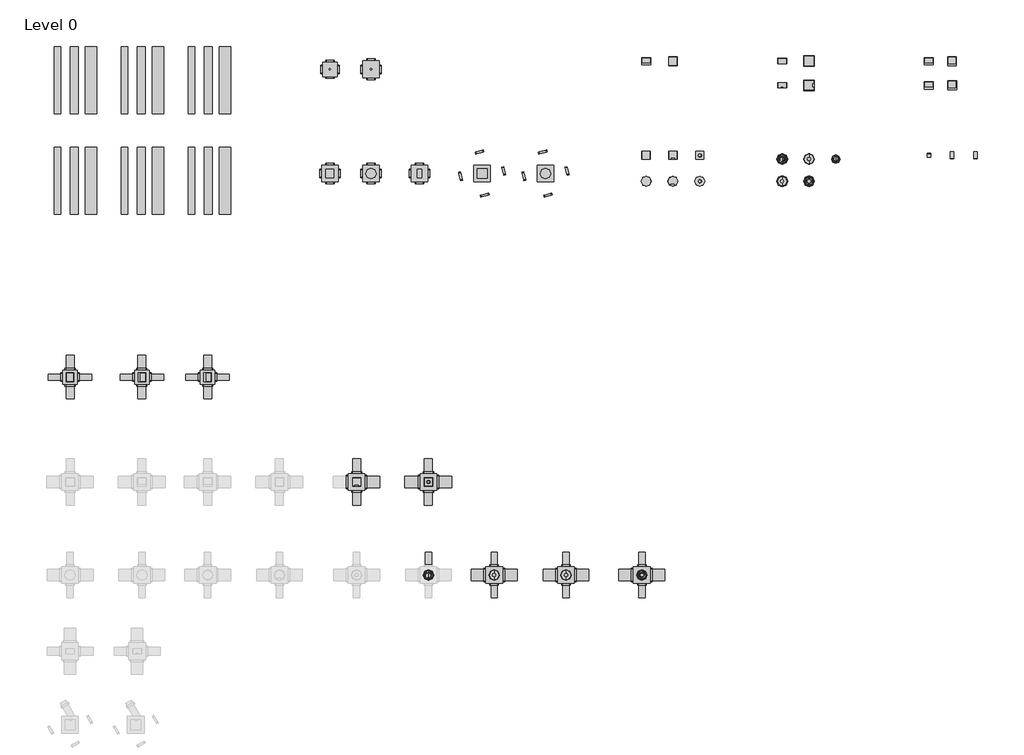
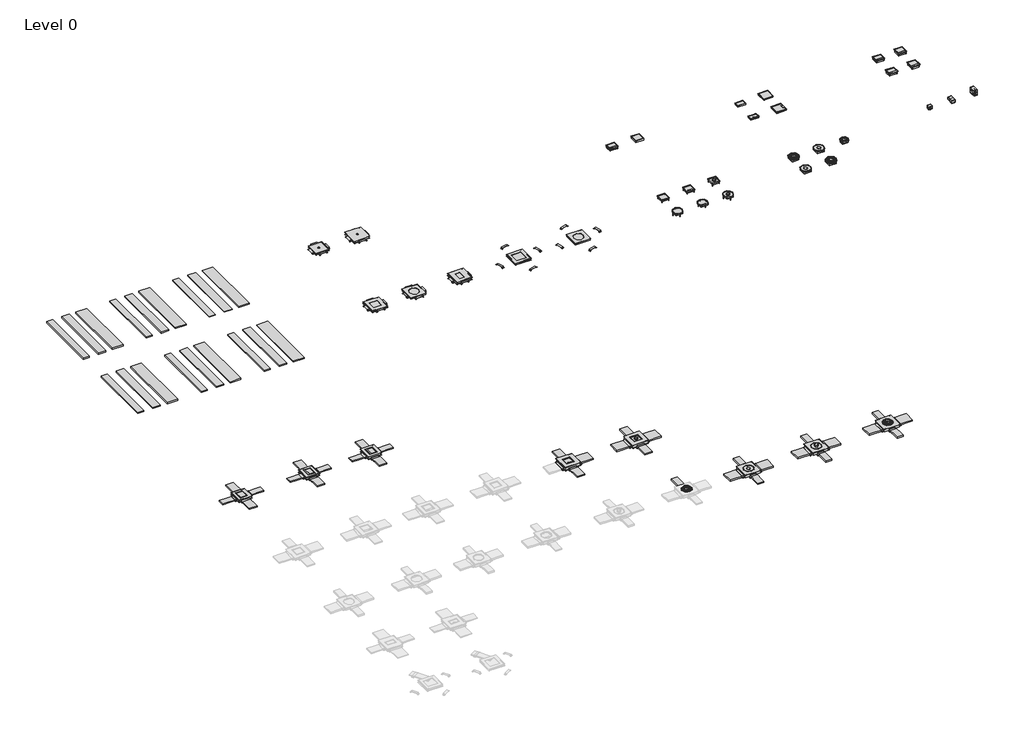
# One storey, part 2 of 2: 50 cable carrier segments, 34 proxies, 15 cable carrier fittings.
"""IFC4 building model written with IfcOpenShell, lengths in millimetres."""

from ifc_helpers import new_model, si_unit, frame, origin, place, context, project, spatial, polyline, outline, extrude, transform, mapped, element, save
from components import electrical_fixtures_dd45cec8, electrical_fixtures_62458b07, electrical_fixtures_8427cab8, electrical_fixtures_e29cb0aa, electrical_fixtures_c710c140, electrical_fixtures_057aeb0d, electrical_fixtures_bc096a6a, electrical_fixtures_bc675c06, electrical_fixtures_8ed366d0, electrical_fixtures_dd5e6c87, electrical_fixtures_1398e5e1, color_deep_black_09ea9520, color_deep_black_c19cb628, color_deep_black_fa90bbad, color_deep_black_c4cdae59, color_deep_black_3e0b7094, color_deep_black_f01a6ed9, color_deep_black_919f03ab, color_iron_grey_872dce2f, color_iron_grey_b0ae90e2, stainless_steel_cassette_q12_bl_outer_height_28mm_38aa1d54, stainless_steel_cassette_q12_le_outer_height_28mm_4387def9, stainless_steel_cassette_q12_tm_outer_height_28mm_6e70061e, stainless_steel_cassette_r12_bl_outer_height_28mm_04f2a1df, stainless_steel_cassette_r12_le_outer_height_28mm_2c233eef, stainless_steel_cassette_r12_tm_outer_height_28mm_eca8fb90, cable_carrier_fitting_95a8737b, cable_carrier_fitting_8ec82d7f, cable_carrier_fitting_5dca8683, cable_carrier_fitting_5f74ec3e, universal_junction_box_with_bottom_plate_size_2_fdcef50c, universal_junction_box_with_bottom_plate_size_2_2fa8826b, universal_junction_box_with_bottom_plate_size_2_3eebd924, universal_junction_box_with_bottom_plate_size_2_4473feed, universal_junction_box_with_bottom_plate_size_3_bfdb4a76, universal_junction_box_with_bottom_plate_size_3_fc0b7f47, universal_junction_box_with_bottom_plate_size_3_6bbe9316, universal_junction_box_with_sheet_metal_casing_size_3_51affc23

model = new_model("IFC4")

# Units and contexts
model_context = context("Model", 3, world=origin())
ifc_project = project(units=[si_unit("LENGTHUNIT", "METRE", prefix="MILLI")], contexts=[model_context])

# Site, building, storey
site = spatial("IfcSite", under=ifc_project)
building = spatial("IfcBuilding", under=site)
storey = spatial("IfcBuildingStorey", under=building, Name="Level 0", Elevation=0.0)

# Proxies
placement = place(None, origin())
electrical_fixtures_shape = electrical_fixtures_dd45cec8(model_context)
element("IfcBuildingElementProxy", 1, Name="Electrical_Installation_Hager_VE-EE_Pedestal-box-8 : GB pedestal box 8 inst. fields iron gray", ObjectType="Electrical_Installation_Hager_VE-EE_Pedestal-box-8 : GB pedestal box 8 inst. fields iron gray", at=placement, inside=storey, context=model_context, shape_type="MappedRepresentation", body=[
    mapped(electrical_fixtures_shape, transform((18546.8780036, 7933.6165958, 0.0), x_axis=(1.0, 0.0, 0.0), y_axis=(0.0, 1.0, 0.0), z_axis=(0.0, 0.0, 1.0))),
])
electrical_fixtures_2_shape = electrical_fixtures_62458b07(model_context)
element("IfcBuildingElementProxy", 2, Name="Electrical_Installation_Hager_VE-EE_Service-unit-VE09-made-of-stainless-steel : Electrical_Installation_Hager_VE-EE_Service-unit-VE09-made-of-stainless-steel", ObjectType="Electrical_Installation_Hager_VE-EE_Service-unit-VE09-made-of-stainless-steel : Electrical_Installation_Hager_VE-EE_Service-unit-VE09-made-of-stainless-steel", at=placement, inside=storey, context=model_context, shape_type="MappedRepresentation", body=[
    mapped(electrical_fixtures_2_shape, transform((17153.0835072, 10020.8738117, 0.0), x_axis=(1.0, 0.0, 0.0), y_axis=(0.0, 1.0, 0.0), z_axis=(0.0, 0.0, 1.0))),
])
electrical_fixtures_3_shape = electrical_fixtures_8427cab8(model_context)
element("IfcBuildingElementProxy", 3, Name="Electrical_Installation_Hager_VE-EE_Service-unit-VQ12-made-of-stainless-steel : Electrical_Installation_Hager_VE-EE_Service-unit-VQ12-made-of-stainless-steel", ObjectType="Electrical_Installation_Hager_VE-EE_Service-unit-VQ12-made-of-stainless-steel : Electrical_Installation_Hager_VE-EE_Service-unit-VQ12-made-of-stainless-steel", at=placement, inside=storey, context=model_context, shape_type="MappedRepresentation", body=[
    mapped(electrical_fixtures_3_shape, transform((17844.8100497, 10020.8738117, 0.0), x_axis=(1.0, 0.0, 0.0), y_axis=(0.0, 1.0, 0.0), z_axis=(0.0, 0.0, 1.0))),
])
electrical_fixtures_4_shape = electrical_fixtures_e29cb0aa(model_context)
element("IfcBuildingElementProxy", 4, Name="Electrical_Installation_Hager_VE-EE_VANR_3mm_Service-unit-for-wet-cleaned-floors-for-the-installation-tube-cable-outlet-made-of-aluminium : Service unit R12 w set HB wet Al-Tub 3mm", ObjectType="Electrical_Installation_Hager_VE-EE_VANR_3mm_Service-unit-for-wet-cleaned-floors-for-the-installation-tube-cable-outlet-made-of-aluminium : Service unit R12 w set HB wet Al-Tub 3mm", at=placement, inside=storey, context=model_context, shape_type="MappedRepresentation", body=[
    mapped(electrical_fixtures_4_shape, transform((4197.4796232, -4575.9376679, 74.0), x_axis=(1.0, 0.0, 0.0), y_axis=(0.0, 1.0, 0.0), z_axis=(0.0, 0.0, 1.0))),
])
element("IfcBuildingElementProxy", 5, Name="Electrical_Installation_Hager_VE-EE_VANR_3mm_Service-unit-for-wet-cleaned-floors-for-the-installation-tube-cable-outlet-made-of-aluminium : Service unit R12 w set HB wet Al-Tub 3mm", ObjectType="Electrical_Installation_Hager_VE-EE_VANR_3mm_Service-unit-for-wet-cleaned-floors-for-the-installation-tube-cable-outlet-made-of-aluminium : Service unit R12 w set HB wet Al-Tub 3mm", at=placement, inside=storey, context=model_context, shape_type="MappedRepresentation", body=[
    mapped(electrical_fixtures_4_shape, transform((12780.7945288, 7160.4699345, 0.0), x_axis=(1.0, 0.0, 0.0), y_axis=(0.0, 1.0, 0.0), z_axis=(0.0, 0.0, 1.0))),
])
element("IfcBuildingElementProxy", 6, Name="Electrical_Installation_Hager_VE-EE_VANR_3mm_Service-unit-for-wet-cleaned-floors-with-tube-cable-outlete-made-of-polyamide : Service unit R12 w set HB wet PA-T Al 3mm", ObjectType="Electrical_Installation_Hager_VE-EE_VANR_3mm_Service-unit-for-wet-cleaned-floors-with-tube-cable-outlete-made-of-polyamide : Service unit R12 w set HB wet PA-T Al 3mm", at=placement, inside=storey, context=model_context, shape_type="MappedRepresentation", body=[
    mapped(electrical_fixtures_4_shape, transform((13580.7945288, 7823.1081778, 0.0), x_axis=(1.0, 0.0, 0.0), y_axis=(0.0, 1.0, 0.0), z_axis=(0.0, 0.0, 1.0))),
])
electrical_fixtures_5_shape = electrical_fixtures_c710c140(model_context)
element("IfcBuildingElementProxy", 7, Name="Electrical_Installation_Hager_VE-EE_VANR-Service-unit-for-wet-cleaned-floors-for-the-installation-of-tube-cable-outlets-made-of-aluminium : Service unit R12 w set HB wet Al-Tub R deep black", ObjectType="Electrical_Installation_Hager_VE-EE_VANR-Service-unit-for-wet-cleaned-floors-for-the-installation-of-tube-cable-outlets-made-of-aluminium : Service unit R12 w set HB wet Al-Tub R deep black", at=placement, inside=storey, context=model_context, shape_type="MappedRepresentation", body=[
    mapped(electrical_fixtures_5_shape, transform((14380.7945288, 7823.1081778, 0.0), x_axis=(1.0, 0.0, 0.0), y_axis=(0.0, 1.0, 0.0), z_axis=(0.0, 0.0, 1.0))),
])
electrical_fixtures_6_shape = electrical_fixtures_057aeb0d(model_context)
element("IfcBuildingElementProxy", 8, Name="Electrical_Installation_Hager_VE-EE_VANR-Service-unit-for-wet-cleaned-floors-for-the-installation-tube-cable-outlet-made-of-aluminium : Service unit R12 w set HB wet Al-Tub R", ObjectType="Electrical_Installation_Hager_VE-EE_VANR-Service-unit-for-wet-cleaned-floors-for-the-installation-tube-cable-outlet-made-of-aluminium : Service unit R12 w set HB wet Al-Tub R", at=placement, inside=storey, context=model_context, shape_type="MappedRepresentation", body=[
    mapped(electrical_fixtures_6_shape, transform((12780.7945288, 7823.1081778, 0.0), x_axis=(1.0, 0.0, 0.0), y_axis=(0.0, 1.0, 0.0), z_axis=(0.0, 0.0, 1.0))),
])
element("IfcBuildingElementProxy", 9, Name="Electrical_Installation_Hager_VE-EE_VANR-Service-unit-for-wet-cleaned-floors-for-the-installation-tube-cable-outlet-made-of-aluminium : Service unit R12 w set HB wet Al-Tub R", ObjectType="Electrical_Installation_Hager_VE-EE_VANR-Service-unit-for-wet-cleaned-floors-for-the-installation-tube-cable-outlet-made-of-aluminium : Service unit R12 w set HB wet Al-Tub R", at=placement, inside=storey, context=model_context, shape_type="MappedRepresentation", body=[
    mapped(electrical_fixtures_6_shape, transform((2237.4796232, -4575.9376679, 74.0), x_axis=(1.0, 0.0, 0.0), y_axis=(0.0, 1.0, 0.0), z_axis=(0.0, 0.0, 1.0))),
])
electrical_fixtures_7_shape = electrical_fixtures_bc096a6a(model_context)
element("IfcBuildingElementProxy", 10, Name="Electrical_Installation_Hager_VE-EE_VANR-Service-unit-for-wet-cleaned-floors-with-tube-cable-outlete-made-of-polyamide : Service unit R12 w set HB wet PA-Tub Al R", ObjectType="Electrical_Installation_Hager_VE-EE_VANR-Service-unit-for-wet-cleaned-floors-with-tube-cable-outlete-made-of-polyamide : Service unit R12 w set HB wet PA-Tub Al R", at=placement, inside=storey, context=model_context, shape_type="MappedRepresentation", body=[
    mapped(electrical_fixtures_7_shape, transform((13580.7945288, 7160.4699345, 0.0), x_axis=(1.0, 0.0, 0.0), y_axis=(0.0, 1.0, 0.0), z_axis=(0.0, 0.0, 1.0))),
])
electrical_fixtures_8_shape = electrical_fixtures_bc675c06(model_context)
element("IfcBuildingElementProxy", 11, Name="Electrical_Installation_Hager_VE-EE_Pedestal-box-2 : GB pedestal box 2 inst. fields iron gray", ObjectType="Electrical_Installation_Hager_VE-EE_Pedestal-box-2 : GB pedestal box 2 inst. fields iron gray", at=placement, inside=storey, context=model_context, shape_type="MappedRepresentation", body=[
    mapped(electrical_fixtures_8_shape, transform((17153.0835072, 7933.6165958, 0.0), x_axis=(1.0, 0.0, 0.0), y_axis=(0.0, 1.0, 0.0), z_axis=(0.0, 0.0, 1.0))),
])
electrical_fixtures_9_shape = electrical_fixtures_8ed366d0(model_context)
element("IfcBuildingElementProxy", 12, Name="Electrical_Installation_Hager_VE-EE_Pedestal-box-4 : GB pedestal box 4 inst. fields iron gray", ObjectType="Electrical_Installation_Hager_VE-EE_Pedestal-box-4 : GB pedestal box 4 inst. fields iron gray", at=placement, inside=storey, context=model_context, shape_type="MappedRepresentation", body=[
    mapped(electrical_fixtures_9_shape, transform((17844.8100497, 7933.6165958, 0.0), x_axis=(1.0, 0.0, 0.0), y_axis=(0.0, 1.0, 0.0), z_axis=(0.0, 0.0, 1.0))),
])
electrical_fixtures_10_shape = electrical_fixtures_dd5e6c87(model_context)
element("IfcBuildingElementProxy", 13, Name="Electrical_Installation_Hager_VE-EE_VANR-Service-unit-for-wet-cleaned-floors-with-tube-cable-outlete-made-of-polyamide : Service unit R12 w set HB wet PA-Tub Al R", ObjectType="Electrical_Installation_Hager_VE-EE_VANR-Service-unit-for-wet-cleaned-floors-with-tube-cable-outlete-made-of-polyamide : Service unit R12 w set HB wet PA-Tub Al R", at=placement, inside=storey, context=model_context, shape_type="MappedRepresentation", body=[
    mapped(electrical_fixtures_10_shape, transform((8597.4796232, -4575.9376679, 74.0), x_axis=(1.0, 0.0, 0.0), y_axis=(0.0, 1.0, 0.0), z_axis=(0.0, 0.0, 1.0))),
])
element("IfcBuildingElementProxy", 14, Name="Electrical_Installation_Hager_VE-EE_Service-unit-VE09-made-of-stainless-steel : Electrical_Installation_Hager_VE-EE_Service-unit-VE09-made-of-stainless-steel", ObjectType="Electrical_Installation_Hager_VE-EE_Service-unit-VE09-made-of-stainless-steel : Electrical_Installation_Hager_VE-EE_Service-unit-VE09-made-of-stainless-steel", at=placement, inside=storey, context=model_context, shape_type="MappedRepresentation", body=[
    mapped(electrical_fixtures_2_shape, transform((-4342.5203768, 1319.6816929, 78.0), x_axis=(0.0, -1.0, 0.0), y_axis=(1.0, 0.0, 0.0), z_axis=(0.0, 0.0, 1.0))),
])
electrical_fixtures_11_shape = electrical_fixtures_1398e5e1(model_context)
element("IfcBuildingElementProxy", 15, Name="Electrical_Installation_Hager_VE-EE_VANR_3mm_Service-unit-for-wet-cleaned-floors-with-tube-cable-outlete-made-of-polyamide : Service unit R12 w set HB wet PA-T Al 3mm", ObjectType="Electrical_Installation_Hager_VE-EE_VANR_3mm_Service-unit-for-wet-cleaned-floors-with-tube-cable-outlete-made-of-polyamide : Service unit R12 w set HB wet PA-T Al 3mm", at=placement, inside=storey, context=model_context, shape_type="MappedRepresentation", body=[
    mapped(electrical_fixtures_11_shape, transform((6337.4796232, -4575.9376679, 74.0), x_axis=(1.0, 0.0, 0.0), y_axis=(0.0, 1.0, 0.0), z_axis=(0.0, 0.0, 1.0))),
])
color_deep_black_shape = color_deep_black_09ea9520(model_context)
element("IfcBuildingElementProxy", 16, Name="Electrical_Installation_Hager_VE-EE_Service-unit-VE09 : Color Deep Black", ObjectType="Electrical_Installation_Hager_VE-EE_Service-unit-VE09 : Color Deep Black", at=placement, inside=storey, context=model_context, shape_type="MappedRepresentation", body=[
    mapped(color_deep_black_shape, transform((8724.6249215, 10739.4319731, 0.0), x_axis=(1.0, 0.0, 0.0), y_axis=(0.0, 1.0, 0.0), z_axis=(0.0, 0.0, 1.0))),
])
color_deep_black_2_shape = color_deep_black_c19cb628(model_context)
element("IfcBuildingElementProxy", 17, Name="Electrical_Installation_Hager_VE-EE_Cover-VDQ12 : Color Deep Black", ObjectType="Electrical_Installation_Hager_VE-EE_Cover-VDQ12 : Color Deep Black", at=placement, inside=storey, context=model_context, shape_type="MappedRepresentation", body=[
    mapped(color_deep_black_2_shape, transform((9524.6249215, 10739.4319731, 0.0), x_axis=(1.0, 0.0, 0.0), y_axis=(0.0, 1.0, 0.0), z_axis=(0.0, 0.0, 1.0))),
])
color_deep_black_3_shape = color_deep_black_fa90bbad(model_context)
element("IfcBuildingElementProxy", 18, Name="Electrical_Installation_Hager_VE-EE_Service-Unit-VQ12 : Color Deep Black", ObjectType="Electrical_Installation_Hager_VE-EE_Service-Unit-VQ12 : Color Deep Black", at=placement, inside=storey, context=model_context, shape_type="MappedRepresentation", body=[
    mapped(color_deep_black_3_shape, transform((17844.8100497, 10739.4319731, 0.0), x_axis=(1.0, 0.0, 0.0), y_axis=(0.0, 1.0, 0.0), z_axis=(0.0, 0.0, 1.0))),
])
color_deep_black_4_shape = color_deep_black_c4cdae59(model_context)
element("IfcBuildingElementProxy", 19, Name="Electrical_Installation_Hager_VE-EE_Cover-BDE04 : Color Deep Black", ObjectType="Electrical_Installation_Hager_VE-EE_Cover-BDE04 : Color Deep Black", at=placement, inside=storey, context=model_context, shape_type="MappedRepresentation", body=[
    mapped(color_deep_black_4_shape, transform((12780.7945288, 10739.4319731, 0.0), x_axis=(1.0, 0.0, 0.0), y_axis=(0.0, 1.0, 0.0), z_axis=(0.0, 0.0, 1.0))),
])
color_deep_black_5_shape = color_deep_black_3e0b7094(model_context)
element("IfcBuildingElementProxy", 20, Name="Electrical_Installation_Hager_VE-EE_Cover-BDQ08 : Color Deep Black", ObjectType="Electrical_Installation_Hager_VE-EE_Cover-BDQ08 : Color Deep Black", at=placement, inside=storey, context=model_context, shape_type="MappedRepresentation", body=[
    mapped(color_deep_black_5_shape, transform((13580.7945288, 10739.4319731, 0.0), x_axis=(1.0, 0.0, 0.0), y_axis=(0.0, 1.0, 0.0), z_axis=(0.0, 0.0, 1.0))),
])
color_deep_black_6_shape = color_deep_black_f01a6ed9(model_context)
element("IfcBuildingElementProxy", 21, Name="Electrical_Installation_Hager_VE-EE_Cover-KDQ08 : Color Deep Black", ObjectType="Electrical_Installation_Hager_VE-EE_Cover-KDQ08 : Color Deep Black", at=placement, inside=storey, context=model_context, shape_type="MappedRepresentation", body=[
    mapped(color_deep_black_6_shape, transform((13580.7945288, 10020.8738117, 0.0), x_axis=(1.0, 0.0, 0.0), y_axis=(0.0, 1.0, 0.0), z_axis=(0.0, 0.0, 1.0))),
])
color_deep_black_7_shape = color_deep_black_919f03ab(model_context)
element("IfcBuildingElementProxy", 22, Name="Electrical_Installation_Hager_VE-EE_Cover-KDE04 : Color Deep Black", ObjectType="Electrical_Installation_Hager_VE-EE_Cover-KDE04 : Color Deep Black", at=placement, inside=storey, context=model_context, shape_type="MappedRepresentation", body=[
    mapped(color_deep_black_7_shape, transform((12780.7945288, 10020.8738117, 0.0), x_axis=(1.0, 0.0, 0.0), y_axis=(0.0, 1.0, 0.0), z_axis=(0.0, 0.0, 1.0))),
])
color_iron_grey_shape = color_iron_grey_872dce2f(model_context)
element("IfcBuildingElementProxy", 23, Name="Electrical_Installation_Hager_VE-EE_Cover-VDE09 : Color Iron Grey", ObjectType="Electrical_Installation_Hager_VE-EE_Cover-VDE09 : Color Iron Grey", at=placement, inside=storey, context=model_context, shape_type="MappedRepresentation", body=[
    mapped(color_iron_grey_shape, transform((8724.6249215, 10739.4319731, 0.0), x_axis=(1.0, 0.0, 0.0), y_axis=(0.0, 1.0, 0.0), z_axis=(0.0, 0.0, 1.0))),
])
element("IfcBuildingElementProxy", 24, Name="Electrical_Installation_Hager_VE-EE_Cover-VDE09 : Color Iron Grey", ObjectType="Electrical_Installation_Hager_VE-EE_Cover-VDE09 : Color Iron Grey", at=placement, inside=storey, context=model_context, shape_type="MappedRepresentation", body=[
    mapped(color_iron_grey_shape, transform((-8442.5203768, 1319.6816929, 54.0), x_axis=(0.0, -1.0, 0.0), y_axis=(1.0, 0.0, 0.0), z_axis=(0.0, 0.0, 1.0))),
])
element("IfcBuildingElementProxy", 25, Name="Electrical_Installation_Hager_VE-EE_Service-unit-VE09 : Color Iron Grey", ObjectType="Electrical_Installation_Hager_VE-EE_Service-unit-VE09 : Color Iron Grey", at=placement, inside=storey, context=model_context, shape_type="MappedRepresentation", body=[
    mapped(color_deep_black_shape, transform((17153.0835072, 10739.4319731, 0.0), x_axis=(1.0, 0.0, 0.0), y_axis=(0.0, 1.0, 0.0), z_axis=(0.0, 0.0, 1.0))),
])
color_iron_grey_2_shape = color_iron_grey_b0ae90e2(model_context)
element("IfcBuildingElementProxy", 26, Name="Electrical_Installation_Hager_VE-EE_Service-unit-VE09 : Color Iron Grey", ObjectType="Electrical_Installation_Hager_VE-EE_Service-unit-VE09 : Color Iron Grey", at=placement, inside=storey, context=model_context, shape_type="MappedRepresentation", body=[
    mapped(color_iron_grey_2_shape, transform((-6302.5203768, 1319.6816929, 71.0), x_axis=(0.0, -1.0, 0.0), y_axis=(1.0, 0.0, 0.0), z_axis=(0.0, 0.0, 1.0))),
])
stainless_steel_cassette_q12_bl_outer_height_28mm_shape = stainless_steel_cassette_q12_bl_outer_height_28mm_38aa1d54(model_context)
element("IfcBuildingElementProxy", 27, Name="Electrical_Installation_Hager_VE-EE_EKQ-Height-adjustable-stainless-steel-cassette-blank-square-for-damp-cleaned-floors : Stainless-steel cassette Q12 BL outer height 28mm", ObjectType="Electrical_Installation_Hager_VE-EE_EKQ-Height-adjustable-stainless-steel-cassette-blank-square-for-damp-cleaned-floors : Stainless-steel cassette Q12 BL outer height 28mm", at=placement, inside=storey, context=model_context, shape_type="MappedRepresentation", body=[
    mapped(stainless_steel_cassette_q12_bl_outer_height_28mm_shape, transform((8724.6249215, 7933.6165958, 0.0), x_axis=(1.0, 0.0, 0.0), y_axis=(0.0, 1.0, 0.0), z_axis=(0.0, 0.0, 1.0))),
])
stainless_steel_cassette_q12_le_outer_height_28mm_shape = stainless_steel_cassette_q12_le_outer_height_28mm_4387def9(model_context)
element("IfcBuildingElementProxy", 28, Name="Electrical_Installation_Hager_VE-EE_EKQ-Height-adjustable-stainless-steel-cassette-with-cable-outlet-square-for-dry-cleaned-floors : Stainless-steel cassette Q12 LE outer height 28mm", ObjectType="Electrical_Installation_Hager_VE-EE_EKQ-Height-adjustable-stainless-steel-cassette-with-cable-outlet-square-for-dry-cleaned-floors : Stainless-steel cassette Q12 LE outer height 28mm", at=placement, inside=storey, context=model_context, shape_type="MappedRepresentation", body=[
    mapped(stainless_steel_cassette_q12_le_outer_height_28mm_shape, transform((9524.6249215, 7933.6165958, 0.0), x_axis=(1.0, 0.0, 0.0), y_axis=(0.0, 1.0, 0.0), z_axis=(0.0, 0.0, 1.0))),
])
element("IfcBuildingElementProxy", 29, Name="Electrical_Installation_Hager_VE-EE_EKQ-Height-adjustable-stainless-steel-cassette-with-cable-outlet-square-for-dry-cleaned-floors : Stainless-steel cassette Q12 LE outer height 28mm", ObjectType="Electrical_Installation_Hager_VE-EE_EKQ-Height-adjustable-stainless-steel-cassette-with-cable-outlet-square-for-dry-cleaned-floors : Stainless-steel cassette Q12 LE outer height 28mm", at=placement, inside=storey, context=model_context, shape_type="MappedRepresentation", body=[
    mapped(stainless_steel_cassette_q12_le_outer_height_28mm_shape, transform((97.4796232, -1802.7596237, 89.0), x_axis=(1.0, 0.0, 0.0), y_axis=(0.0, 1.0, 0.0), z_axis=(0.0, 0.0, 1.0))),
])
stainless_steel_cassette_q12_tm_outer_height_28mm_shape = stainless_steel_cassette_q12_tm_outer_height_28mm_6e70061e(model_context)
element("IfcBuildingElementProxy", 30, Name="Electrical_Installation_Hager_VE-EE_EKQ-Height-adjustable-stainless-steel-cassette-with-tube-mounting-set-square-for-damp-cleaned-floors : Stainless-steel cassette Q12 TM outer height 28mm", ObjectType="Electrical_Installation_Hager_VE-EE_EKQ-Height-adjustable-stainless-steel-cassette-with-tube-mounting-set-square-for-damp-cleaned-floors : Stainless-steel cassette Q12 TM outer height 28mm", at=placement, inside=storey, context=model_context, shape_type="MappedRepresentation", body=[
    mapped(stainless_steel_cassette_q12_tm_outer_height_28mm_shape, transform((10324.6249215, 7933.6165958, 0.0), x_axis=(1.0, 0.0, 0.0), y_axis=(0.0, 1.0, 0.0), z_axis=(0.0, 0.0, 1.0))),
])
element("IfcBuildingElementProxy", 31, Name="Electrical_Installation_Hager_VE-EE_EKQ-Height-adjustable-stainless-steel-cassette-with-tube-mounting-set-square-for-damp-cleaned-floors : Stainless-steel cassette Q12 TM outer height 28mm", ObjectType="Electrical_Installation_Hager_VE-EE_EKQ-Height-adjustable-stainless-steel-cassette-with-tube-mounting-set-square-for-damp-cleaned-floors : Stainless-steel cassette Q12 TM outer height 28mm", at=placement, inside=storey, context=model_context, shape_type="MappedRepresentation", body=[
    mapped(stainless_steel_cassette_q12_tm_outer_height_28mm_shape, transform((2237.4796232, -1802.7596237, 89.0), x_axis=(1.0, 0.0, 0.0), y_axis=(0.0, 1.0, 0.0), z_axis=(0.0, 0.0, 1.0))),
])
stainless_steel_cassette_r12_bl_outer_height_28mm_shape = stainless_steel_cassette_r12_bl_outer_height_28mm_04f2a1df(model_context)
element("IfcBuildingElementProxy", 32, Name="Electrical_Installation_Hager_VE-EE_EKR-Height-adjustable-stainless-steel-cassette-blank-round-for-damp-cleaned-floors : Stainless-steel cassette R12 BL outer height 28mm", ObjectType="Electrical_Installation_Hager_VE-EE_EKR-Height-adjustable-stainless-steel-cassette-blank-round-for-damp-cleaned-floors : Stainless-steel cassette R12 BL outer height 28mm", at=placement, inside=storey, context=model_context, shape_type="MappedRepresentation", body=[
    mapped(stainless_steel_cassette_r12_bl_outer_height_28mm_shape, transform((8724.6249215, 7160.4699345, 0.0), x_axis=(1.0, 0.0, 0.0), y_axis=(0.0, 1.0, 0.0), z_axis=(0.0, 0.0, 1.0))),
])
stainless_steel_cassette_r12_le_outer_height_28mm_shape = stainless_steel_cassette_r12_le_outer_height_28mm_2c233eef(model_context)
element("IfcBuildingElementProxy", 33, Name="Electrical_Installation_Hager_VE-EE_EKR-Height-adjustable-stainless-steel-cassette-with-square-cable-outlet-for-dry-cleaned-floors : Stainless-steel cassette R12 LE outer height 28mm", ObjectType="Electrical_Installation_Hager_VE-EE_EKR-Height-adjustable-stainless-steel-cassette-with-square-cable-outlet-for-dry-cleaned-floors : Stainless-steel cassette R12 LE outer height 28mm", at=placement, inside=storey, context=model_context, shape_type="MappedRepresentation", body=[
    mapped(stainless_steel_cassette_r12_le_outer_height_28mm_shape, transform((9524.6249215, 7160.4699345, 0.0), x_axis=(1.0, 0.0, 0.0), y_axis=(0.0, 1.0, 0.0), z_axis=(0.0, 0.0, 1.0))),
])
stainless_steel_cassette_r12_tm_outer_height_28mm_shape = stainless_steel_cassette_r12_tm_outer_height_28mm_eca8fb90(model_context)
element("IfcBuildingElementProxy", 34, Name="Electrical_Installation_Hager_VE-EE_EKR-Height-adjustable-stainless-steel-cassette-with-tube-mounting-set-round-for-damp-cleaned-floors : Stainless-steel cassette R12 TM outer height 28mm", ObjectType="Electrical_Installation_Hager_VE-EE_EKR-Height-adjustable-stainless-steel-cassette-with-tube-mounting-set-round-for-damp-cleaned-floors : Stainless-steel cassette R12 TM outer height 28mm", at=placement, inside=storey, context=model_context, shape_type="MappedRepresentation", body=[
    mapped(stainless_steel_cassette_r12_tm_outer_height_28mm_shape, transform((10324.6249215, 7160.4699345, 0.0), x_axis=(1.0, 0.0, 0.0), y_axis=(0.0, 1.0, 0.0), z_axis=(0.0, 0.0, 1.0))),
])

# Cable carrier fittings
cable_carrier_fitting_shape = cable_carrier_fitting_95a8737b(model_context)
element("IfcCableCarrierFitting", 35, ObjectType="Electrical-Installations_Hager_Universal-Junction-Box-With-Retaining-Tabs-Size-3 : Universal junction box with retaining tabs size 3", at=placement, inside=storey, context=model_context, shape_type="MappedRepresentation", body=[
    mapped(cable_carrier_fitting_shape, transform((524.4049911, 7389.7736938, 0.0), x_axis=(1.0, 0.0, 0.0), y_axis=(0.0, 1.0, 0.0), z_axis=(0.0, 0.0, 1.0))),
])
cable_carrier_fitting_2_shape = cable_carrier_fitting_8ec82d7f(model_context)
element("IfcCableCarrierFitting", 36, ObjectType="Electrical-Installations_Hager_Universal-Junction-Box-With-Retaining-Tabs-Size-3 : Universal junction box with retaining tabs size 3", at=placement, inside=storey, context=model_context, shape_type="MappedRepresentation", body=[
    mapped(cable_carrier_fitting_2_shape, transform((4197.4796232, -4575.9376679, 0.0), x_axis=(1.0, 0.0, 0.0), y_axis=(0.0, 1.0, 0.0), z_axis=(0.0, 0.0, 1.0))),
])
element("IfcCableCarrierFitting", 37, ObjectType="Electrical-Installations_Hager_Universal-Junction-Box-With-Retaining-Tabs-Size-3 : Universal junction box with retaining tabs size 3", at=placement, inside=storey, context=model_context, shape_type="MappedRepresentation", body=[
    mapped(cable_carrier_fitting_2_shape, transform((6337.4796232, -4575.9376679, 0.0), x_axis=(1.0, 0.0, 0.0), y_axis=(0.0, 1.0, 0.0), z_axis=(0.0, 0.0, 1.0))),
])
element("IfcCableCarrierFitting", 38, ObjectType="Electrical-Installations_Hager_Universal-Junction-Box-With-Retaining-Tabs-Size-3 : Universal junction box with retaining tabs size 3", at=placement, inside=storey, context=model_context, shape_type="MappedRepresentation", body=[
    mapped(cable_carrier_fitting_2_shape, transform((8597.4796232, -4575.9376679, 0.0), x_axis=(1.0, 0.0, 0.0), y_axis=(0.0, 1.0, 0.0), z_axis=(0.0, 0.0, 1.0))),
])
cable_carrier_fitting_3_shape = cable_carrier_fitting_5dca8683(model_context)
element("IfcCableCarrierFitting", 39, ObjectType="Electrical-Installations_Hager_Universal-Junction-Box-With-Retaining-Tabs-Size-3-Angled : Universal junction box with retaining tabs size 3", at=placement, inside=storey, context=model_context, shape_type="MappedRepresentation", body=[
    mapped(cable_carrier_fitting_3_shape, transform((5724.0415824, 7389.7736938, 0.0), x_axis=(1.0, 0.0, 0.0), y_axis=(0.0, 1.0, 0.0), z_axis=(0.0, 0.0, 1.0))),
])
cable_carrier_fitting_4_shape = cable_carrier_fitting_5f74ec3e(model_context)
element("IfcCableCarrierFitting", 40, ObjectType="Electrical-Installations_Hager_Universal-Junction-Box-With-Retaining-Tabs-Size-2 : Universal junction box with retaining tabs size 2", at=placement, inside=storey, context=model_context, shape_type="MappedRepresentation", body=[
    mapped(cable_carrier_fitting_4_shape, transform((524.4049911, 10496.4192014, 0.0), x_axis=(1.0, 0.0, 0.0), y_axis=(0.0, 1.0, 0.0), z_axis=(0.0, 0.0, 1.0))),
])
universal_junction_box_with_bottom_plate_size_2_shape = universal_junction_box_with_bottom_plate_size_2_fdcef50c(model_context)
element("IfcCableCarrierFitting", 41, ObjectType="Electrical-Installations_Hager_Universal-Junction-Box-With-Bottom-Plate-Size-2 : Universal junction box with bottom plate size 2", at=placement, inside=storey, context=model_context, shape_type="MappedRepresentation", body=[
    mapped(universal_junction_box_with_bottom_plate_size_2_shape, transform((-699.7693879, 10496.4192014, 0.0), x_axis=(1.0, 0.0, 0.0), y_axis=(0.0, 1.0, 0.0), z_axis=(0.0, 0.0, 1.0))),
])
universal_junction_box_with_bottom_plate_size_2_2_shape = universal_junction_box_with_bottom_plate_size_2_2fa8826b(model_context)
element("IfcCableCarrierFitting", 42, ObjectType="Electrical-Installations_Hager_Universal-Junction-Box-With-Bottom-Plate-Size-2 : Universal junction box with bottom plate size 2", at=placement, inside=storey, context=model_context, shape_type="MappedRepresentation", body=[
    mapped(universal_junction_box_with_bottom_plate_size_2_2_shape, transform((-8442.5203768, 1319.6816929, 0.0), x_axis=(1.0, 0.0, 0.0), y_axis=(0.0, 1.0, 0.0), z_axis=(0.0, 0.0, 1.0))),
])
universal_junction_box_with_bottom_plate_size_2_3_shape = universal_junction_box_with_bottom_plate_size_2_3eebd924(model_context)
element("IfcCableCarrierFitting", 43, ObjectType="Electrical-Installations_Hager_Universal-Junction-Box-With-Bottom-Plate-Size-2 : Universal junction box with bottom plate size 2", at=placement, inside=storey, context=model_context, shape_type="MappedRepresentation", body=[
    mapped(universal_junction_box_with_bottom_plate_size_2_3_shape, transform((-6302.5203768, 1319.6816929, 0.0), x_axis=(1.0, 0.0, 0.0), y_axis=(0.0, 1.0, 0.0), z_axis=(0.0, 0.0, 1.0))),
])
universal_junction_box_with_bottom_plate_size_2_4_shape = universal_junction_box_with_bottom_plate_size_2_4473feed(model_context)
element("IfcCableCarrierFitting", 44, ObjectType="Electrical-Installations_Hager_Universal-Junction-Box-With-Bottom-Plate-Size-2 : Universal junction box with bottom plate size 2", at=placement, inside=storey, context=model_context, shape_type="MappedRepresentation", body=[
    mapped(universal_junction_box_with_bottom_plate_size_2_4_shape, transform((-4342.5203768, 1319.6816929, 0.0), x_axis=(1.0, 0.0, 0.0), y_axis=(0.0, 1.0, 0.0), z_axis=(0.0, 0.0, 1.0))),
])
universal_junction_box_with_bottom_plate_size_3_shape = universal_junction_box_with_bottom_plate_size_3_bfdb4a76(model_context)
element("IfcCableCarrierFitting", 45, ObjectType="Electrical-Installations_Hager_Universal-Junction-Box-With-Bottom-Plate-Size-3 : Universal junction box with bottom plate size 3", at=placement, inside=storey, context=model_context, shape_type="MappedRepresentation", body=[
    mapped(universal_junction_box_with_bottom_plate_size_3_shape, transform((-699.7693879, 7389.7736938, 0.0), x_axis=(1.0, 0.0, 0.0), y_axis=(0.0, 1.0, 0.0), z_axis=(0.0, 0.0, 1.0))),
])
universal_junction_box_with_bottom_plate_size_3_2_shape = universal_junction_box_with_bottom_plate_size_3_fc0b7f47(model_context)
element("IfcCableCarrierFitting", 46, ObjectType="Electrical-Installations_Hager_Universal-Junction-Box-With-Bottom-Plate-Size-3 : Universal junction box with bottom plate size 3", at=placement, inside=storey, context=model_context, shape_type="MappedRepresentation", body=[
    mapped(universal_junction_box_with_bottom_plate_size_3_2_shape, transform((97.4796232, -1802.7596237, 0.0), x_axis=(1.0, 0.0, 0.0), y_axis=(0.0, 1.0, 0.0), z_axis=(0.0, 0.0, 1.0))),
])
element("IfcCableCarrierFitting", 47, ObjectType="Electrical-Installations_Hager_Universal-Junction-Box-With-Bottom-Plate-Size-3 : Universal junction box with bottom plate size 3", at=placement, inside=storey, context=model_context, shape_type="MappedRepresentation", body=[
    mapped(universal_junction_box_with_bottom_plate_size_3_2_shape, transform((2237.4796232, -1802.7596237, 0.0), x_axis=(1.0, 0.0, 0.0), y_axis=(0.0, 1.0, 0.0), z_axis=(0.0, 0.0, 1.0))),
])
universal_junction_box_with_bottom_plate_size_3_3_shape = universal_junction_box_with_bottom_plate_size_3_6bbe9316(model_context)
element("IfcCableCarrierFitting", 48, ObjectType="Electrical-Installations_Hager_Universal-Junction-Box-With-Bottom-Plate-Size-3-Angled : Universal junction box with bottom plate size 3", at=placement, inside=storey, context=model_context, shape_type="MappedRepresentation", body=[
    mapped(universal_junction_box_with_bottom_plate_size_3_3_shape, transform((3838.5261466, 7389.7736938, 0.0), x_axis=(1.0, 0.0, 0.0), y_axis=(0.0, 1.0, 0.0), z_axis=(0.0, 0.0, 1.0))),
])
universal_junction_box_with_sheet_metal_casing_size_3_shape = universal_junction_box_with_sheet_metal_casing_size_3_51affc23(model_context)
element("IfcCableCarrierFitting", 49, ObjectType="Electrical-Installations_Hager_Universal-Junction-Box-With-Sheet-Metal-Casing-Size-3 : Universal junction box with sheet metal casing size 3", at=placement, inside=storey, context=model_context, shape_type="MappedRepresentation", body=[
    mapped(universal_junction_box_with_sheet_metal_casing_size_3_shape, transform((1972.0563213, 7389.7736938, 0.0), x_axis=(1.0, 0.0, 0.0), y_axis=(0.0, 1.0, 0.0), z_axis=(0.0, 0.0, 1.0))),
])

# Cable carrier segments
element("IfcCableCarrierSegment", 50, ObjectType="Electrical-Installations_Cable-Trays_Hager_Electraplan-Trunking-2-Compartments", at=placement, inside=storey, context=model_context, shape_type="SweptSolid", body=[
    extrude(outline(polyline([(-8727.5203768, 9175.4578507), (-8917.5203768, 9175.4578507), (-8917.5203768, 11175.4578507), (-8727.5203768, 11175.4578507), (-8727.5203768, 9175.4578507)])), frame((0.0, 0.0, -24.0), z_axis=(0.0, 0.0, 1.0), x_axis=(1.0, 0.0, 0.0)), (0.0, 0.0, 1.0), 48.0),
])
element("IfcCableCarrierSegment", 51, ObjectType="Electrical-Installations_Cable-Trays_Hager_Electraplan-Trunking-2-Compartments", at=placement, inside=storey, context=model_context, shape_type="SweptSolid", body=[
    extrude(outline(polyline([(-8202.5203768, 9175.4578507), (-8442.5203768, 9175.4578507), (-8442.5203768, 11175.4578507), (-8202.5203768, 11175.4578507), (-8202.5203768, 9175.4578507)])), frame((0.0, 0.0, -24.0), z_axis=(0.0, 0.0, 1.0), x_axis=(1.0, 0.0, 0.0)), (0.0, 0.0, 1.0), 48.0),
])
element("IfcCableCarrierSegment", 52, ObjectType="Electrical-Installations_Cable-Trays_Hager_Electraplan-Trunking-2-Compartments", at=placement, inside=storey, context=model_context, shape_type="SweptSolid", body=[
    extrude(outline(polyline([(-7652.5203768, 9175.4578507), (-7992.5203768, 9175.4578507), (-7992.5203768, 11175.4578507), (-7652.5203768, 11175.4578507), (-7652.5203768, 9175.4578507)])), frame((0.0, 0.0, -24.0), z_axis=(0.0, 0.0, 1.0), x_axis=(1.0, 0.0, 0.0)), (0.0, 0.0, 1.0), 48.0),
])
element("IfcCableCarrierSegment", 53, ObjectType="Electrical-Installations_Cable-Trays_Hager_Electraplan-Trunking-2-Compartments", at=placement, inside=storey, context=model_context, shape_type="SweptSolid", body=[
    extrude(outline(polyline([(-5652.5203768, 9175.4578507), (-5992.5203768, 9175.4578507), (-5992.5203768, 11175.4578507), (-5652.5203768, 11175.4578507), (-5652.5203768, 9175.4578507)])), frame((0.0, 0.0, -19.0), z_axis=(0.0, 0.0, 1.0), x_axis=(1.0, 0.0, 0.0)), (0.0, 0.0, 1.0), 38.0),
])
element("IfcCableCarrierSegment", 54, ObjectType="Electrical-Installations_Cable-Trays_Hager_Electraplan-Trunking-2-Compartments", at=placement, inside=storey, context=model_context, shape_type="SweptSolid", body=[
    extrude(outline(polyline([(-6442.5203768, 11175.4578507), (-6202.5203768, 11175.4578507), (-6202.5203768, 9175.4578507), (-6442.5203768, 9175.4578507), (-6442.5203768, 11175.4578507)])), frame((0.0, 0.0, -19.0), z_axis=(0.0, 0.0, 1.0), x_axis=(1.0, 0.0, 0.0)), (0.0, 0.0, 1.0), 38.0),
])
element("IfcCableCarrierSegment", 55, ObjectType="Electrical-Installations_Cable-Trays_Hager_Electraplan-Trunking-2-Compartments", at=placement, inside=storey, context=model_context, shape_type="SweptSolid", body=[
    extrude(outline(polyline([(-3652.5203768, 9175.4578507), (-3992.5203768, 9175.4578507), (-3992.5203768, 11175.4578507), (-3652.5203768, 11175.4578507), (-3652.5203768, 9175.4578507)])), frame((0.0, 0.0, -14.0), z_axis=(0.0, 0.0, 1.0), x_axis=(1.0, 0.0, 0.0)), (0.0, 0.0, 1.0), 28.0),
])
element("IfcCableCarrierSegment", 56, ObjectType="Electrical-Installations_Cable-Trays_Hager_Electraplan-Trunking-2-Compartments", at=placement, inside=storey, context=model_context, shape_type="SweptSolid", body=[
    extrude(outline(polyline([(-4442.5203768, 11175.4578507), (-4202.5203768, 11175.4578507), (-4202.5203768, 9175.4578507), (-4442.5203768, 9175.4578507), (-4442.5203768, 11175.4578507)])), frame((0.0, 0.0, -14.0), z_axis=(0.0, 0.0, 1.0), x_axis=(1.0, 0.0, 0.0)), (0.0, 0.0, 1.0), 28.0),
])
element("IfcCableCarrierSegment", 57, ObjectType="Electrical-Installations_Cable-Trays_Hager_Electraplan-Trunking-2-Compartments", at=placement, inside=storey, context=model_context, shape_type="SweptSolid", body=[
    extrude(outline(polyline([(-4917.5203768, 11175.4578507), (-4727.5203768, 11175.4578507), (-4727.5203768, 9175.4578507), (-4917.5203768, 9175.4578507), (-4917.5203768, 11175.4578507)])), frame((0.0, 0.0, -14.0), z_axis=(0.0, 0.0, 1.0), x_axis=(1.0, 0.0, 0.0)), (0.0, 0.0, 1.0), 28.0),
])
element("IfcCableCarrierSegment", 58, ObjectType="Electrical-Installations_Cable-Trays_Hager_Electraplan-Trunking-3-Compartments", at=placement, inside=storey, context=model_context, shape_type="SweptSolid", body=[
    extrude(outline(polyline([(-8727.5203768, 6175.4578507), (-8917.5203768, 6175.4578507), (-8917.5203768, 8175.4578507), (-8727.5203768, 8175.4578507), (-8727.5203768, 6175.4578507)])), frame((0.0, 0.0, -24.0), z_axis=(0.0, 0.0, 1.0), x_axis=(1.0, 0.0, 0.0)), (0.0, 0.0, 1.0), 48.0),
])
element("IfcCableCarrierSegment", 59, ObjectType="Electrical-Installations_Cable-Trays_Hager_Electraplan-Trunking-3-Compartments", at=placement, inside=storey, context=model_context, shape_type="SweptSolid", body=[
    extrude(outline(polyline([(-8202.5203768, 6175.4578507), (-8442.5203768, 6175.4578507), (-8442.5203768, 8175.4578507), (-8202.5203768, 8175.4578507), (-8202.5203768, 6175.4578507)])), frame((0.0, 0.0, -24.0), z_axis=(0.0, 0.0, 1.0), x_axis=(1.0, 0.0, 0.0)), (0.0, 0.0, 1.0), 48.0),
])
element("IfcCableCarrierSegment", 60, ObjectType="Electrical-Installations_Cable-Trays_Hager_Electraplan-Trunking-3-Compartments", at=placement, inside=storey, context=model_context, shape_type="SweptSolid", body=[
    extrude(outline(polyline([(-7652.5203768, 6175.4578507), (-7992.5203768, 6175.4578507), (-7992.5203768, 8175.4578507), (-7652.5203768, 8175.4578507), (-7652.5203768, 6175.4578507)])), frame((0.0, 0.0, -24.0), z_axis=(0.0, 0.0, 1.0), x_axis=(1.0, 0.0, 0.0)), (0.0, 0.0, 1.0), 48.0),
])
element("IfcCableCarrierSegment", 61, ObjectType="Electrical-Installations_Cable-Trays_Hager_Electraplan-Trunking-3-Compartments", at=placement, inside=storey, context=model_context, shape_type="SweptSolid", body=[
    extrude(outline(polyline([(-5652.5203768, 6175.4578507), (-5992.5203768, 6175.4578507), (-5992.5203768, 8175.4578507), (-5652.5203768, 8175.4578507), (-5652.5203768, 6175.4578507)])), frame((0.0, 0.0, -19.0), z_axis=(0.0, 0.0, 1.0), x_axis=(1.0, 0.0, 0.0)), (0.0, 0.0, 1.0), 38.0),
])
element("IfcCableCarrierSegment", 62, ObjectType="Electrical-Installations_Cable-Trays_Hager_Electraplan-Trunking-3-Compartments", at=placement, inside=storey, context=model_context, shape_type="SweptSolid", body=[
    extrude(outline(polyline([(-6442.5203768, 8175.4578507), (-6202.5203768, 8175.4578507), (-6202.5203768, 6175.4578507), (-6442.5203768, 6175.4578507), (-6442.5203768, 8175.4578507)])), frame((0.0, 0.0, -19.0), z_axis=(0.0, 0.0, 1.0), x_axis=(1.0, 0.0, 0.0)), (0.0, 0.0, 1.0), 38.0),
])
element("IfcCableCarrierSegment", 63, ObjectType="Electrical-Installations_Cable-Trays_Hager_Electraplan-Trunking-3-Compartments", at=placement, inside=storey, context=model_context, shape_type="SweptSolid", body=[
    extrude(outline(polyline([(-6917.5203768, 8175.4578507), (-6727.5203768, 8175.4578507), (-6727.5203768, 6175.4578507), (-6917.5203768, 6175.4578507), (-6917.5203768, 8175.4578507)])), frame((0.0, 0.0, -19.0), z_axis=(0.0, 0.0, 1.0), x_axis=(1.0, 0.0, 0.0)), (0.0, 0.0, 1.0), 38.0),
])
element("IfcCableCarrierSegment", 64, ObjectType="Electrical-Installations_Cable-Trays_Hager_Electraplan-Trunking-3-Compartments", at=placement, inside=storey, context=model_context, shape_type="SweptSolid", body=[
    extrude(outline(polyline([(-4442.5203768, 8175.4578507), (-4202.5203768, 8175.4578507), (-4202.5203768, 6175.4578507), (-4442.5203768, 6175.4578507), (-4442.5203768, 8175.4578507)])), frame((0.0, 0.0, -14.0), z_axis=(0.0, 0.0, 1.0), x_axis=(1.0, 0.0, 0.0)), (0.0, 0.0, 1.0), 28.0),
])
element("IfcCableCarrierSegment", 65, ObjectType="Electrical-Installations_Cable-Trays_Hager_Electraplan-Trunking-3-Compartments", at=placement, inside=storey, context=model_context, shape_type="SweptSolid", body=[
    extrude(outline(polyline([(-4917.5203768, 8175.4578507), (-4727.5203768, 8175.4578507), (-4727.5203768, 6175.4578507), (-4917.5203768, 6175.4578507), (-4917.5203768, 8175.4578507)])), frame((0.0, 0.0, -14.0), z_axis=(0.0, 0.0, 1.0), x_axis=(1.0, 0.0, 0.0)), (0.0, 0.0, 1.0), 28.0),
])
element("IfcCableCarrierSegment", 66, ObjectType="Electrical-Installations_Cable-Trays_Hager_Electraplan-Trunking-2-Compartments", at=placement, inside=storey, context=model_context, shape_type="SweptSolid", body=[
    extrude(outline(polyline([(-8322.5203768, 1467.6816929), (-8562.5203768, 1467.6816929), (-8562.5203768, 1967.6816929), (-8322.5203768, 1967.6816929), (-8322.5203768, 1467.6816929)])), frame((0.0, 0.0, -14.0), z_axis=(0.0, 0.0, 1.0), x_axis=(1.0, 0.0, 0.0)), (0.0, 0.0, 1.0), 28.0),
])
element("IfcCableCarrierSegment", 67, ObjectType="Electrical-Installations_Cable-Trays_Hager_Electraplan-Trunking-2-Compartments", at=placement, inside=storey, context=model_context, shape_type="SweptSolid", body=[
    extrude(outline(polyline([(-8590.5203768, 1414.6816929), (-8590.5203768, 1224.6816929), (-9090.5203768, 1224.6816929), (-9090.5203768, 1414.6816929), (-8590.5203768, 1414.6816929)])), frame((0.0, 0.0, -14.0), z_axis=(0.0, 0.0, 1.0), x_axis=(1.0, 0.0, 0.0)), (0.0, 0.0, 1.0), 28.0),
])
element("IfcCableCarrierSegment", 68, ObjectType="Electrical-Installations_Cable-Trays_Hager_Electraplan-Trunking-2-Compartments", at=placement, inside=storey, context=model_context, shape_type="SweptSolid", body=[
    extrude(outline(polyline([(-8294.5203768, 1224.6816929), (-8294.5203768, 1414.6816929), (-7794.5203768, 1414.6816929), (-7794.5203768, 1224.6816929), (-8294.5203768, 1224.6816929)])), frame((0.0, 0.0, -14.0), z_axis=(0.0, 0.0, 1.0), x_axis=(1.0, 0.0, 0.0)), (0.0, 0.0, 1.0), 28.0),
])
element("IfcCableCarrierSegment", 69, ObjectType="Electrical-Installations_Cable-Trays_Hager_Electraplan-Trunking-2-Compartments", at=placement, inside=storey, context=model_context, shape_type="SweptSolid", body=[
    extrude(outline(polyline([(-8562.5203768, 1171.6816929), (-8322.5203768, 1171.6816929), (-8322.5203768, 671.6816929), (-8562.5203768, 671.6816929), (-8562.5203768, 1171.6816929)])), frame((0.0, 0.0, -14.0), z_axis=(0.0, 0.0, 1.0), x_axis=(1.0, 0.0, 0.0)), (0.0, 0.0, 1.0), 28.0),
])
element("IfcCableCarrierSegment", 70, ObjectType="Electrical-Installations_Cable-Trays_Hager_Electraplan-Trunking-2-Compartments", at=placement, inside=storey, context=model_context, shape_type="SweptSolid", body=[
    extrude(outline(polyline([(-6182.5203768, 1467.6816929), (-6422.5203768, 1467.6816929), (-6422.5203768, 1967.6816929), (-6182.5203768, 1967.6816929), (-6182.5203768, 1467.6816929)])), frame((0.0, 0.0, -14.0), z_axis=(0.0, 0.0, 1.0), x_axis=(1.0, 0.0, 0.0)), (0.0, 0.0, 1.0), 28.0),
])
element("IfcCableCarrierSegment", 71, ObjectType="Electrical-Installations_Cable-Trays_Hager_Electraplan-Trunking-2-Compartments", at=placement, inside=storey, context=model_context, shape_type="SweptSolid", body=[
    extrude(outline(polyline([(-6450.5203768, 1414.6816929), (-6450.5203768, 1224.6816929), (-6950.5203768, 1224.6816929), (-6950.5203768, 1414.6816929), (-6450.5203768, 1414.6816929)])), frame((0.0, 0.0, -14.0), z_axis=(0.0, 0.0, 1.0), x_axis=(1.0, 0.0, 0.0)), (0.0, 0.0, 1.0), 28.0),
])
element("IfcCableCarrierSegment", 72, ObjectType="Electrical-Installations_Cable-Trays_Hager_Electraplan-Trunking-2-Compartments", at=placement, inside=storey, context=model_context, shape_type="SweptSolid", body=[
    extrude(outline(polyline([(-6154.5203768, 1224.6816929), (-6154.5203768, 1414.6816929), (-5654.5203768, 1414.6816929), (-5654.5203768, 1224.6816929), (-6154.5203768, 1224.6816929)])), frame((0.0, 0.0, -14.0), z_axis=(0.0, 0.0, 1.0), x_axis=(1.0, 0.0, 0.0)), (0.0, 0.0, 1.0), 28.0),
])
element("IfcCableCarrierSegment", 73, ObjectType="Electrical-Installations_Cable-Trays_Hager_Electraplan-Trunking-2-Compartments", at=placement, inside=storey, context=model_context, shape_type="SweptSolid", body=[
    extrude(outline(polyline([(-6422.5203768, 1171.6816929), (-6182.5203768, 1171.6816929), (-6182.5203768, 671.6816929), (-6422.5203768, 671.6816929), (-6422.5203768, 1171.6816929)])), frame((0.0, 0.0, -14.0), z_axis=(0.0, 0.0, 1.0), x_axis=(1.0, 0.0, 0.0)), (0.0, 0.0, 1.0), 28.0),
])
element("IfcCableCarrierSegment", 74, ObjectType="Electrical-Installations_Cable-Trays_Hager_Electraplan-Trunking-2-Compartments", at=placement, inside=storey, context=model_context, shape_type="SweptSolid", body=[
    extrude(outline(polyline([(-4222.5203768, 1467.6816929), (-4462.5203768, 1467.6816929), (-4462.5203768, 1967.6816929), (-4222.5203768, 1967.6816929), (-4222.5203768, 1467.6816929)])), frame((0.0, 0.0, -14.0), z_axis=(0.0, 0.0, 1.0), x_axis=(1.0, 0.0, 0.0)), (0.0, 0.0, 1.0), 28.0),
])
element("IfcCableCarrierSegment", 75, ObjectType="Electrical-Installations_Cable-Trays_Hager_Electraplan-Trunking-2-Compartments", at=placement, inside=storey, context=model_context, shape_type="SweptSolid", body=[
    extrude(outline(polyline([(-4490.5203768, 1414.6816929), (-4490.5203768, 1224.6816929), (-4990.5203768, 1224.6816929), (-4990.5203768, 1414.6816929), (-4490.5203768, 1414.6816929)])), frame((0.0, 0.0, -14.0), z_axis=(0.0, 0.0, 1.0), x_axis=(1.0, 0.0, 0.0)), (0.0, 0.0, 1.0), 28.0),
])
element("IfcCableCarrierSegment", 76, ObjectType="Electrical-Installations_Cable-Trays_Hager_Electraplan-Trunking-2-Compartments", at=placement, inside=storey, context=model_context, shape_type="SweptSolid", body=[
    extrude(outline(polyline([(-4194.5203768, 1224.6816929), (-4194.5203768, 1414.6816929), (-3694.5203768, 1414.6816929), (-3694.5203768, 1224.6816929), (-4194.5203768, 1224.6816929)])), frame((0.0, 0.0, -14.0), z_axis=(0.0, 0.0, 1.0), x_axis=(1.0, 0.0, 0.0)), (0.0, 0.0, 1.0), 28.0),
])
element("IfcCableCarrierSegment", 77, ObjectType="Electrical-Installations_Cable-Trays_Hager_Electraplan-Trunking-2-Compartments", at=placement, inside=storey, context=model_context, shape_type="SweptSolid", body=[
    extrude(outline(polyline([(-4462.5203768, 1171.6816929), (-4222.5203768, 1171.6816929), (-4222.5203768, 671.6816929), (-4462.5203768, 671.6816929), (-4462.5203768, 1171.6816929)])), frame((0.0, 0.0, -14.0), z_axis=(0.0, 0.0, 1.0), x_axis=(1.0, 0.0, 0.0)), (0.0, 0.0, 1.0), 28.0),
])
element("IfcCableCarrierSegment", 78, ObjectType="Electrical-Installations_Cable-Trays_Hager_Electraplan-Trunking-3-Compartments", at=placement, inside=storey, context=model_context, shape_type="SweptSolid", body=[
    extrude(outline(polyline([(-3652.5203768, 6175.4578507), (-3992.5203768, 6175.4578507), (-3992.5203768, 8175.4578507), (-3652.5203768, 8175.4578507), (-3652.5203768, 6175.4578507)])), frame((0.0, 0.0, -14.0), z_axis=(0.0, 0.0, 1.0), x_axis=(1.0, 0.0, 0.0)), (0.0, 0.0, 1.0), 28.0),
])
element("IfcCableCarrierSegment", 79, ObjectType="Electrical-Installations_Cable-Trays_Hager_Electraplan-Trunking-2-Compartments", at=placement, inside=storey, context=model_context, shape_type="SweptSolid", body=[
    extrude(outline(polyline([(-6917.5203768, 11175.4578507), (-6727.5203768, 11175.4578507), (-6727.5203768, 9175.4578507), (-6917.5203768, 9175.4578507), (-6917.5203768, 11175.4578507)])), frame((0.0, 0.0, -19.0), z_axis=(0.0, 0.0, 1.0), x_axis=(1.0, 0.0, 0.0)), (0.0, 0.0, 1.0), 38.0),
])
element("IfcCableCarrierSegment", 80, ObjectType="Electrical-Installations_Cable-Trays_Hager_Electraplan-Trunking-2-Compartments", at=placement, inside=storey, context=model_context, shape_type="SweptSolid", body=[
    extrude(outline(polyline([(291.3753352, -1972.7596237), (291.3753352, -1632.7596237), (791.3753352, -1632.7596237), (791.3753352, -1972.7596237), (291.3753352, -1972.7596237)])), frame((0.0, 0.0, -19.0), z_axis=(0.0, 0.0, 1.0), x_axis=(1.0, 0.0, 0.0)), (0.0, 0.0, 1.0), 38.0),
])
element("IfcCableCarrierSegment", 81, ObjectType="Electrical-Installations_Cable-Trays_Hager_Electraplan-Trunking-2-Compartments", at=placement, inside=storey, context=model_context, shape_type="SweptSolid", body=[
    extrude(outline(polyline([(217.4796232, -1617.7596237), (-22.5203768, -1617.7596237), (-22.5203768, -1117.7596237), (217.4796232, -1117.7596237), (217.4796232, -1617.7596237)])), frame((0.0, 0.0, -19.0), z_axis=(0.0, 0.0, 1.0), x_axis=(1.0, 0.0, 0.0)), (0.0, 0.0, 1.0), 38.0),
])
element("IfcCableCarrierSegment", 82, ObjectType="Electrical-Installations_Cable-Trays_Hager_Electraplan-Trunking-2-Compartments", at=placement, inside=storey, context=model_context, shape_type="SweptSolid", body=[
    extrude(outline(polyline([(-22.5203768, -1990.7478206), (217.4796232, -1990.7478206), (217.4796232, -2490.7478206), (-22.5203768, -2490.7478206), (-22.5203768, -1990.7478206)])), frame((0.0, 0.0, -19.0), z_axis=(0.0, 0.0, 1.0), x_axis=(1.0, 0.0, 0.0)), (0.0, 0.0, 1.0), 38.0),
])
element("IfcCableCarrierSegment", 83, ObjectType="Electrical-Installations_Cable-Trays_Hager_Electraplan-Trunking-2-Compartments", at=placement, inside=storey, context=model_context, shape_type="SweptSolid", body=[
    extrude(outline(polyline([(2431.3753352, -1972.7596237), (2431.3753352, -1632.7596237), (2931.3753352, -1632.7596237), (2931.3753352, -1972.7596237), (2431.3753352, -1972.7596237)])), frame((0.0, 0.0, -19.0), z_axis=(0.0, 0.0, 1.0), x_axis=(1.0, 0.0, 0.0)), (0.0, 0.0, 1.0), 38.0),
])
element("IfcCableCarrierSegment", 84, ObjectType="Electrical-Installations_Cable-Trays_Hager_Electraplan-Trunking-2-Compartments", at=placement, inside=storey, context=model_context, shape_type="SweptSolid", body=[
    extrude(outline(polyline([(2357.4796232, -1617.7596237), (2117.4796232, -1617.7596237), (2117.4796232, -1117.7596237), (2357.4796232, -1117.7596237), (2357.4796232, -1617.7596237)])), frame((0.0, 0.0, -19.0), z_axis=(0.0, 0.0, 1.0), x_axis=(1.0, 0.0, 0.0)), (0.0, 0.0, 1.0), 38.0),
])
element("IfcCableCarrierSegment", 85, ObjectType="Electrical-Installations_Cable-Trays_Hager_Electraplan-Trunking-2-Compartments", at=placement, inside=storey, context=model_context, shape_type="SweptSolid", body=[
    extrude(outline(polyline([(2035.4796232, -1632.7596237), (2035.4796232, -1972.7596237), (1535.4796232, -1972.7596237), (1535.4796232, -1632.7596237), (2035.4796232, -1632.7596237)])), frame((0.0, 0.0, -19.0), z_axis=(0.0, 0.0, 1.0), x_axis=(1.0, 0.0, 0.0)), (0.0, 0.0, 1.0), 38.0),
])
element("IfcCableCarrierSegment", 86, ObjectType="Electrical-Installations_Cable-Trays_Hager_Electraplan-Trunking-2-Compartments", at=placement, inside=storey, context=model_context, shape_type="SweptSolid", body=[
    extrude(outline(polyline([(2117.4796232, -1990.7478206), (2357.4796232, -1990.7478206), (2357.4796232, -2490.7478206), (2117.4796232, -2490.7478206), (2117.4796232, -1990.7478206)])), frame((0.0, 0.0, -19.0), z_axis=(0.0, 0.0, 1.0), x_axis=(1.0, 0.0, 0.0)), (0.0, 0.0, 1.0), 38.0),
])
element("IfcCableCarrierSegment", 87, ObjectType="Electrical-Installations_Cable-Trays_Hager_Electraplan-Trunking-3-Compartments", at=placement, inside=storey, context=model_context, shape_type="SweptSolid", body=[
    extrude(outline(polyline([(2332.4796232, -4392.9376679), (2142.4796232, -4392.9376679), (2142.4796232, -3892.9376679), (2332.4796232, -3892.9376679), (2332.4796232, -4392.9376679)])), frame((0.0, 0.0, -24.0), z_axis=(0.0, 0.0, 1.0), x_axis=(1.0, 0.0, 0.0)), (0.0, 0.0, 1.0), 48.0),
])
element("IfcCableCarrierSegment", 88, ObjectType="Electrical-Installations_Cable-Trays_Hager_Electraplan-Trunking-3-Compartments", at=placement, inside=storey, context=model_context, shape_type="SweptSolid", body=[
    extrude(outline(polyline([(4380.4796232, -4745.9376679), (4380.4796232, -4405.9376679), (4880.4796232, -4405.9376679), (4880.4796232, -4745.9376679), (4380.4796232, -4745.9376679)])), frame((0.0, 0.0, -24.0), z_axis=(0.0, 0.0, 1.0), x_axis=(1.0, 0.0, 0.0)), (0.0, 0.0, 1.0), 48.0),
])
element("IfcCableCarrierSegment", 89, ObjectType="Electrical-Installations_Cable-Trays_Hager_Electraplan-Trunking-3-Compartments", at=placement, inside=storey, context=model_context, shape_type="SweptSolid", body=[
    extrude(outline(polyline([(4014.4796232, -4405.9376679), (4014.4796232, -4745.9376679), (3514.4796232, -4745.9376679), (3514.4796232, -4405.9376679), (4014.4796232, -4405.9376679)])), frame((0.0, 0.0, -24.0), z_axis=(0.0, 0.0, 1.0), x_axis=(1.0, 0.0, 0.0)), (0.0, 0.0, 1.0), 48.0),
])
element("IfcCableCarrierSegment", 90, ObjectType="Electrical-Installations_Cable-Trays_Hager_Electraplan-Trunking-3-Compartments", at=placement, inside=storey, context=model_context, shape_type="SweptSolid", body=[
    extrude(outline(polyline([(4292.4796232, -4392.9376679), (4102.4796232, -4392.9376679), (4102.4796232, -3892.9376679), (4292.4796232, -3892.9376679), (4292.4796232, -4392.9376679)])), frame((0.0, 0.0, -24.0), z_axis=(0.0, 0.0, 1.0), x_axis=(1.0, 0.0, 0.0)), (0.0, 0.0, 1.0), 48.0),
])
element("IfcCableCarrierSegment", 91, ObjectType="Electrical-Installations_Cable-Trays_Hager_Electraplan-Trunking-3-Compartments", at=placement, inside=storey, context=model_context, shape_type="SweptSolid", body=[
    extrude(outline(polyline([(4102.4796232, -4758.9376679), (4292.4796232, -4758.9376679), (4292.4796232, -5258.9376679), (4102.4796232, -5258.9376679), (4102.4796232, -4758.9376679)])), frame((0.0, 0.0, -24.0), z_axis=(0.0, 0.0, 1.0), x_axis=(1.0, 0.0, 0.0)), (0.0, 0.0, 1.0), 48.0),
])
element("IfcCableCarrierSegment", 92, ObjectType="Electrical-Installations_Cable-Trays_Hager_Electraplan-Trunking-3-Compartments", at=placement, inside=storey, context=model_context, shape_type="SweptSolid", body=[
    extrude(outline(polyline([(6520.4796232, -4745.9376679), (6520.4796232, -4405.9376679), (7020.4796232, -4405.9376679), (7020.4796232, -4745.9376679), (6520.4796232, -4745.9376679)])), frame((0.0, 0.0, -24.0), z_axis=(0.0, 0.0, 1.0), x_axis=(1.0, 0.0, 0.0)), (0.0, 0.0, 1.0), 48.0),
])
element("IfcCableCarrierSegment", 93, ObjectType="Electrical-Installations_Cable-Trays_Hager_Electraplan-Trunking-3-Compartments", at=placement, inside=storey, context=model_context, shape_type="SweptSolid", body=[
    extrude(outline(polyline([(6154.4796232, -4405.9376679), (6154.4796232, -4745.9376679), (5654.4796232, -4745.9376679), (5654.4796232, -4405.9376679), (6154.4796232, -4405.9376679)])), frame((0.0, 0.0, -24.0), z_axis=(0.0, 0.0, 1.0), x_axis=(1.0, 0.0, 0.0)), (0.0, 0.0, 1.0), 48.0),
])
element("IfcCableCarrierSegment", 94, ObjectType="Electrical-Installations_Cable-Trays_Hager_Electraplan-Trunking-3-Compartments", at=placement, inside=storey, context=model_context, shape_type="SweptSolid", body=[
    extrude(outline(polyline([(6432.4796232, -4392.9376679), (6242.4796232, -4392.9376679), (6242.4796232, -3892.9376679), (6432.4796232, -3892.9376679), (6432.4796232, -4392.9376679)])), frame((0.0, 0.0, -24.0), z_axis=(0.0, 0.0, 1.0), x_axis=(1.0, 0.0, 0.0)), (0.0, 0.0, 1.0), 48.0),
])
element("IfcCableCarrierSegment", 95, ObjectType="Electrical-Installations_Cable-Trays_Hager_Electraplan-Trunking-3-Compartments", at=placement, inside=storey, context=model_context, shape_type="SweptSolid", body=[
    extrude(outline(polyline([(6242.4796232, -4758.9376679), (6432.4796232, -4758.9376679), (6432.4796232, -5258.9376679), (6242.4796232, -5258.9376679), (6242.4796232, -4758.9376679)])), frame((0.0, 0.0, -24.0), z_axis=(0.0, 0.0, 1.0), x_axis=(1.0, 0.0, 0.0)), (0.0, 0.0, 1.0), 48.0),
])
element("IfcCableCarrierSegment", 96, ObjectType="Electrical-Installations_Cable-Trays_Hager_Electraplan-Trunking-3-Compartments", at=placement, inside=storey, context=model_context, shape_type="SweptSolid", body=[
    extrude(outline(polyline([(8780.4796232, -4745.9376679), (8780.4796232, -4405.9376679), (9280.4796232, -4405.9376679), (9280.4796232, -4745.9376679), (8780.4796232, -4745.9376679)])), frame((0.0, 0.0, -24.0), z_axis=(0.0, 0.0, 1.0), x_axis=(1.0, 0.0, 0.0)), (0.0, 0.0, 1.0), 48.0),
])
element("IfcCableCarrierSegment", 97, ObjectType="Electrical-Installations_Cable-Trays_Hager_Electraplan-Trunking-3-Compartments", at=placement, inside=storey, context=model_context, shape_type="SweptSolid", body=[
    extrude(outline(polyline([(8414.4796232, -4405.9376679), (8414.4796232, -4745.9376679), (7914.4796232, -4745.9376679), (7914.4796232, -4405.9376679), (8414.4796232, -4405.9376679)])), frame((0.0, 0.0, -24.0), z_axis=(0.0, 0.0, 1.0), x_axis=(1.0, 0.0, 0.0)), (0.0, 0.0, 1.0), 48.0),
])
element("IfcCableCarrierSegment", 98, ObjectType="Electrical-Installations_Cable-Trays_Hager_Electraplan-Trunking-3-Compartments", at=placement, inside=storey, context=model_context, shape_type="SweptSolid", body=[
    extrude(outline(polyline([(8692.4796232, -4392.9376679), (8502.4796232, -4392.9376679), (8502.4796232, -3892.9376679), (8692.4796232, -3892.9376679), (8692.4796232, -4392.9376679)])), frame((0.0, 0.0, -24.0), z_axis=(0.0, 0.0, 1.0), x_axis=(1.0, 0.0, 0.0)), (0.0, 0.0, 1.0), 48.0),
])
element("IfcCableCarrierSegment", 99, ObjectType="Electrical-Installations_Cable-Trays_Hager_Electraplan-Trunking-3-Compartments", at=placement, inside=storey, context=model_context, shape_type="SweptSolid", body=[
    extrude(outline(polyline([(8502.4796232, -4758.9376679), (8692.4796232, -4758.9376679), (8692.4796232, -5258.9376679), (8502.4796232, -5258.9376679), (8502.4796232, -4758.9376679)])), frame((0.0, 0.0, -24.0), z_axis=(0.0, 0.0, 1.0), x_axis=(1.0, 0.0, 0.0)), (0.0, 0.0, 1.0), 48.0),
])

save(model, "model.ifc")
